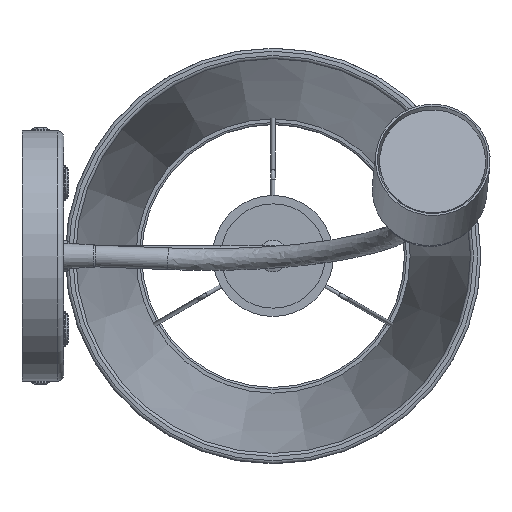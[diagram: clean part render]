
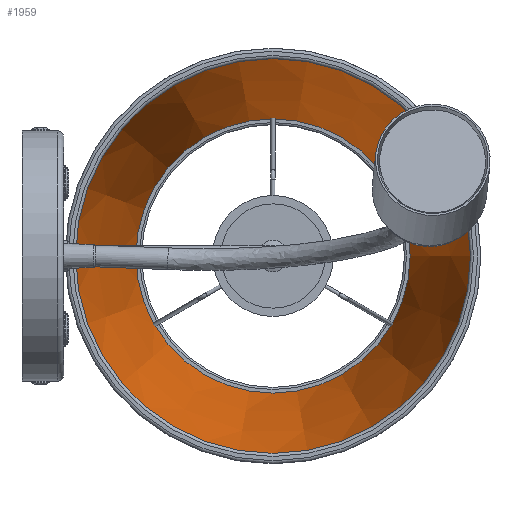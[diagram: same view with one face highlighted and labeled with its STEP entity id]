
A CAD part, front view. The second image highlights one B-rep face of the part: STEP entity #1959.
In plain terms, the highlighted conical face has half-angle 12.095 degrees and reference radius 95.111 mm.
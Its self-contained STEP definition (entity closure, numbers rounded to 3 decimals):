
#34=CONICAL_SURFACE('',#2180,95.111,0.211);
#302=FACE_OUTER_BOUND('',#447,.T.);
#447=EDGE_LOOP('',(#1555,#1556,#1557,#1558,#1559));
#620=LINE('',#3478,#714);
#714=VECTOR('',#2600,100.);
#776=CIRCLE('',#2176,94.632);
#777=CIRCLE('',#2177,94.632);
#779=CIRCLE('',#2181,65.744);
#959=VERTEX_POINT('',#3468);
#960=VERTEX_POINT('',#3470);
#962=VERTEX_POINT('',#3477);
#1173=EDGE_CURVE('',#959,#960,#776,.T.);
#1174=EDGE_CURVE('',#960,#959,#777,.T.);
#1176=EDGE_CURVE('',#960,#962,#620,.T.);
#1177=EDGE_CURVE('',#962,#962,#779,.T.);
#1555=ORIENTED_EDGE('',*,*,#1174,.F.);
#1556=ORIENTED_EDGE('',*,*,#1176,.T.);
#1557=ORIENTED_EDGE('',*,*,#1177,.T.);
#1558=ORIENTED_EDGE('',*,*,#1176,.F.);
#1559=ORIENTED_EDGE('',*,*,#1173,.F.);
#1959=ADVANCED_FACE('',(#302),#34,.F.);
#2176=AXIS2_PLACEMENT_3D('',#3471,#2590,#2591);
#2177=AXIS2_PLACEMENT_3D('',#3472,#2592,#2593);
#2180=AXIS2_PLACEMENT_3D('',#3476,#2598,#2599);
#2181=AXIS2_PLACEMENT_3D('',#3479,#2601,#2602);
#2590=DIRECTION('center_axis',(0.,1.,0.));
#2591=DIRECTION('ref_axis',(1.,0.,0.));
#2592=DIRECTION('center_axis',(0.,1.,0.));
#2593=DIRECTION('ref_axis',(1.,0.,0.));
#2598=DIRECTION('center_axis',(0.,-1.,0.));
#2599=DIRECTION('ref_axis',(1.,0.,0.));
#2600=DIRECTION('',(0.21,0.978,0.));
#2601=DIRECTION('center_axis',(0.,1.,0.));
#2602=DIRECTION('ref_axis',(1.,0.,0.));
#3468=CARTESIAN_POINT('',(0.,208.133,-94.632));
#3470=CARTESIAN_POINT('',(-94.632,208.133,0.));
#3471=CARTESIAN_POINT('Origin',(0.,208.133,0.));
#3472=CARTESIAN_POINT('Origin',(0.,208.133,0.));
#3476=CARTESIAN_POINT('Origin',(0.,205.899,0.));
#3477=CARTESIAN_POINT('',(-65.744,342.947,0.));
#3478=CARTESIAN_POINT('',(-95.111,205.899,0.));
#3479=CARTESIAN_POINT('Origin',(0.,342.947,0.));
